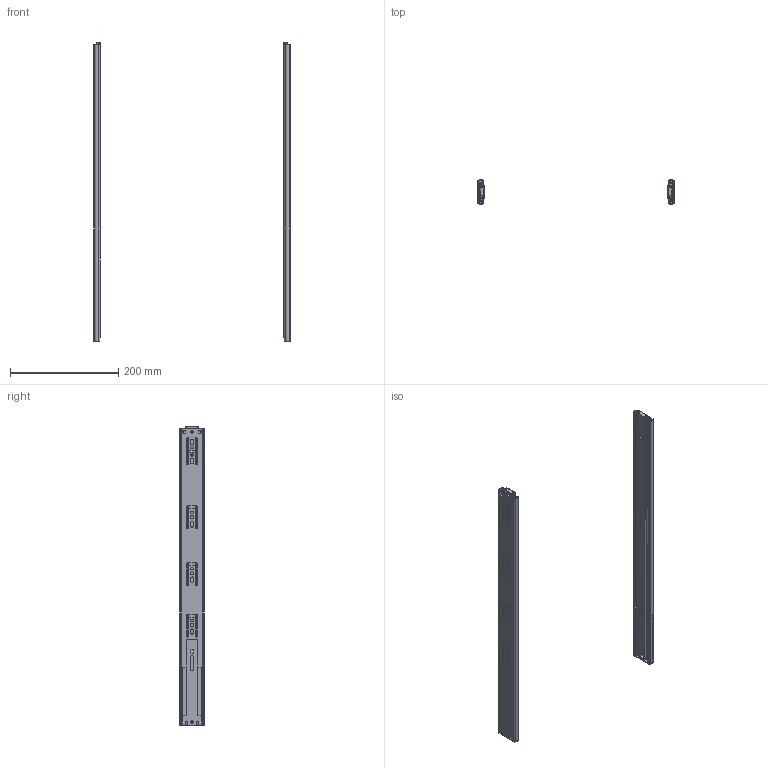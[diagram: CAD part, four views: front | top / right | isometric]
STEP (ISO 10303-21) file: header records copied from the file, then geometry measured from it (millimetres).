
FILE_DESCRIPTION(/* description */ (''),/* implementation_level */ '2;1');
FILE_NAME(/* name */ 'D:\$Workingspace\Designs\Katalog\Cadsoft\GTV Prowadnice\PK-L-P2O-H45-_\PK-L-P2O-H45-550.stp',/* time_stamp */ '2020-04-28T07:23:19+02:00',/* author */ ('tomaszw'),/* organization */ (''),/* preprocessor_version */ 'ST-DEVELOPER v18',/* originating_system */ 'Autodesk Inventor 2020',/* authorisation */ '');
FILE_SCHEMA (('AUTOMOTIVE_DESIGN { 1 0 10303 214 3 1 1 }'));
Length unit declared in the file: millimetre
Products named in the file (6): PK-L-P2O-H45-550; PK-L-P2O-H45_1-550; PK-L-P2O-H45_2-550; PK-L-P2O-H45_3-550; PK-L-P2O-H45_4-_; PK-L-P2O-H45_5-_
Assembly tree (10 placements, depth 2):
  PK-L-P2O-H45-550
    PK-L-P2O-H45_1-550  x2
    PK-L-P2O-H45_2-550  x2
    PK-L-P2O-H45_3-550  x2
    PK-L-P2O-H45_4-_  x2
    PK-L-P2O-H45_5-_  x2
Bounding box: 364 x 45.9 x 555 mm (x, y, z)
Volume: 260407.4 mm3; surface area: 358528 mm2
Topology: 16 solids, 16 shells, 956 faces, 2764 edges, 1840 vertices
Faces by surface type: plane 542, cylinder 410, cone 2, torus 2
Full cylindrical faces by diameter (mm): 1.9 x2, 3 x2, 4 x2, 4.5 x16, 5 x4, 6.2 x6, 8 x2
Entity records: 16753 total; most frequent: CARTESIAN_POINT 2945, DIRECTION 2786, ORIENTED_EDGE 2764, EDGE_CURVE 1382, LINE 952, VECTOR 952, VERTEX_POINT 920, AXIS2_PLACEMENT_3D 917
